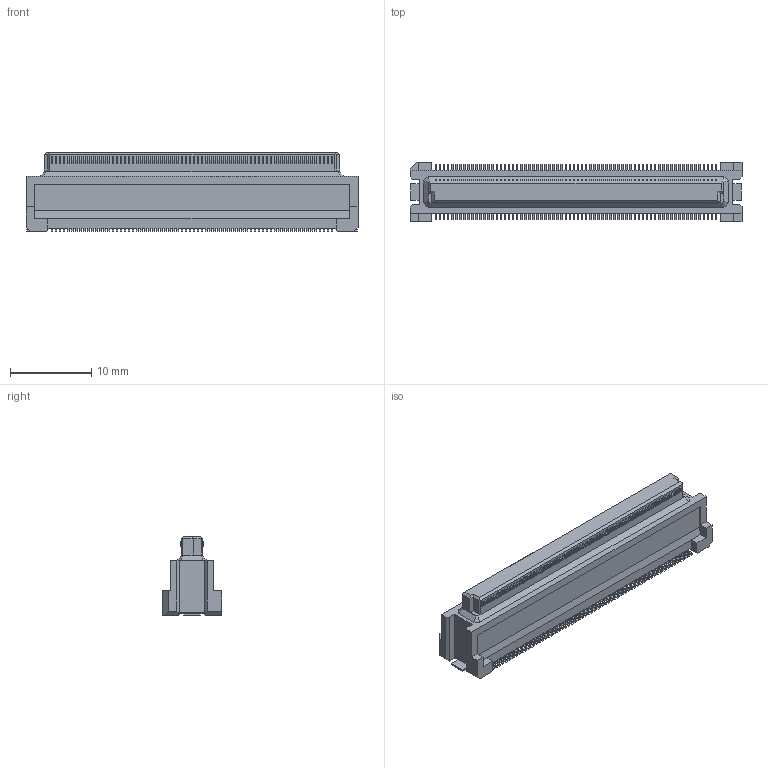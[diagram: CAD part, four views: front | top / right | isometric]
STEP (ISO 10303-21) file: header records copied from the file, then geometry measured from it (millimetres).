
FILE_DESCRIPTION(('Creo Elements/Direct Modeling STEP Export'),'2;1');
FILE_NAME('DY10-140FS-1.stp','2017-11-28T11:21:32',(''),(''),'Creo Elements/Direct Modeling STEP processor for AP214 (Solid Model)','Creo Elements/Direct Modeling 19.0F 14-Feb-2017 (C) Parametric Technology GmbH','');
FILE_SCHEMA(('AUTOMOTIVE_DESIGN { 1 0 10303 214 1 1 1 1 }'));
Products named in the file (2): DY10-140FS-1
Assembly tree (1 placements, depth 2):
  DY10-140FS-1
    DY10-140FS-1
Bounding box: 40.9 x 7.3 x 9.73 mm (x, y, z)
Volume: 1618.6 mm3; surface area: 1553.7 mm2
Topology: 1 solids, 1 shells, 3228 faces, 9209 edges, 6126 vertices
Faces by surface type: plane 2376, cylinder 844, bspline 8
Entity records: 101549 total; most frequent: CARTESIAN_POINT 18899, ORIENTED_EDGE 18418, DIRECTION 15980, EDGE_CURVE 9209, VECTOR 6886, LINE 6886, VERTEX_POINT 6126, AXIS2_PLACEMENT_3D 4547
